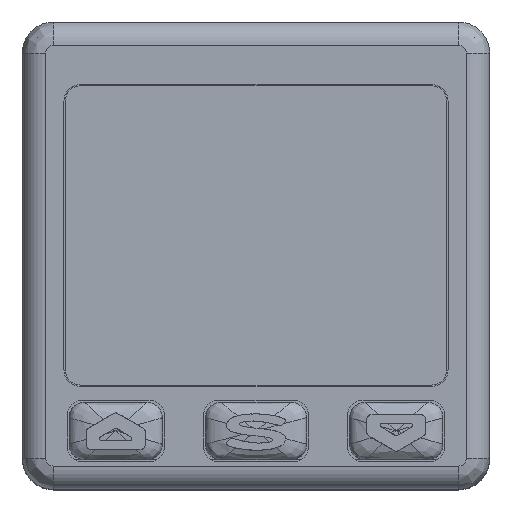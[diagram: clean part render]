
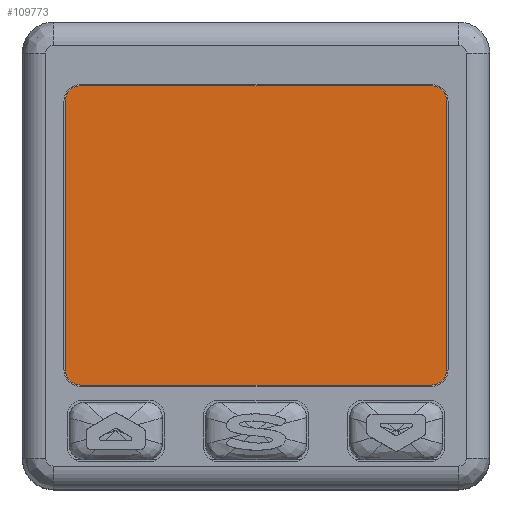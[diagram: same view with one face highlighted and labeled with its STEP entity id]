
A CAD part, top view. The second image highlights one B-rep face of the part: STEP entity #109773.
In plain terms, the highlighted planar face has unit normal (0, 0, 1).
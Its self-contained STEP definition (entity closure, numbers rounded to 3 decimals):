
#35094=CARTESIAN_POINT('',(11.25,-7.3,21.1));
#35095=DIRECTION('',(0.,0.,-1.));
#35096=DIRECTION('',(1.,0.,0.));
#35097=AXIS2_PLACEMENT_3D('',#35094,#35095,#35096);
#35099=DIRECTION('',(1.,0.,0.));
#35100=VECTOR('',#35099,22.5);
#35101=CARTESIAN_POINT('',(-11.25,-8.38,21.1));
#35102=LINE('',#35101,#35100);
#35103=CARTESIAN_POINT('',(-11.25,-7.3,21.1));
#35104=DIRECTION('',(0.,0.,-1.));
#35105=DIRECTION('',(0.,-1.,0.));
#35106=AXIS2_PLACEMENT_3D('',#35103,#35104,#35105);
#35108=DIRECTION('',(0.,1.,0.));
#35109=VECTOR('',#35108,17.2);
#35110=CARTESIAN_POINT('',(-12.33,-7.3,21.1));
#35111=LINE('',#35110,#35109);
#35112=CARTESIAN_POINT('',(-11.25,9.9,21.1));
#35113=DIRECTION('',(0.,0.,-1.));
#35114=DIRECTION('',(-1.,0.,0.));
#35115=AXIS2_PLACEMENT_3D('',#35112,#35113,#35114);
#35117=DIRECTION('',(1.,0.,0.));
#35118=VECTOR('',#35117,22.5);
#35119=CARTESIAN_POINT('',(-11.25,10.98,21.1));
#35120=LINE('',#35119,#35118);
#35121=CARTESIAN_POINT('',(11.25,9.9,21.1));
#35122=DIRECTION('',(0.,0.,-1.));
#35123=DIRECTION('',(0.,1.,0.));
#35124=AXIS2_PLACEMENT_3D('',#35121,#35122,#35123);
#35126=DIRECTION('',(0.,1.,0.));
#35127=VECTOR('',#35126,17.2);
#35128=CARTESIAN_POINT('',(12.33,-7.3,21.1));
#35129=LINE('',#35128,#35127);
#59561=CARTESIAN_POINT('',(12.33,-7.3,21.1));
#59562=CARTESIAN_POINT('',(11.25,-8.38,21.1));
#59563=VERTEX_POINT('',#59561);
#59564=VERTEX_POINT('',#59562);
#59565=CARTESIAN_POINT('',(12.33,9.9,21.1));
#59566=VERTEX_POINT('',#59565);
#59567=CARTESIAN_POINT('',(-11.25,-8.38,21.1));
#59568=VERTEX_POINT('',#59567);
#59569=CARTESIAN_POINT('',(-12.33,9.9,21.1));
#59570=CARTESIAN_POINT('',(-11.25,10.98,21.1));
#59571=VERTEX_POINT('',#59569);
#59572=VERTEX_POINT('',#59570);
#59573=CARTESIAN_POINT('',(11.25,10.98,21.1));
#59574=VERTEX_POINT('',#59573);
#59575=CARTESIAN_POINT('',(-12.33,-7.3,21.1));
#59576=VERTEX_POINT('',#59575);
#109751=CARTESIAN_POINT('',(0.,2.5,21.1));
#109752=DIRECTION('',(0.,0.,1.));
#109753=DIRECTION('',(1.,0.,0.));
#109754=AXIS2_PLACEMENT_3D('',#109751,#109752,#109753);
#109755=PLANE('',#109754);
#109757=ORIENTED_EDGE('',*,*,#109756,.T.);
#109759=ORIENTED_EDGE('',*,*,#109758,.F.);
#109761=ORIENTED_EDGE('',*,*,#109760,.T.);
#109762=ORIENTED_EDGE('',*,*,#109741,.T.);
#109764=ORIENTED_EDGE('',*,*,#109763,.T.);
#109766=ORIENTED_EDGE('',*,*,#109765,.T.);
#109768=ORIENTED_EDGE('',*,*,#109767,.T.);
#109770=ORIENTED_EDGE('',*,*,#109769,.F.);
#109771=EDGE_LOOP('',(#109757,#109759,#109761,#109762,#109764,#109766,#109768,
#109770));
#109772=FACE_OUTER_BOUND('',#109771,.F.);
#109773=ADVANCED_FACE('',(#109772),#109755,.T.);
#35098=CIRCLE('',#35097,1.08);
#35107=CIRCLE('',#35106,1.08);
#35116=CIRCLE('',#35115,1.08);
#35125=CIRCLE('',#35124,1.08);
#109741=EDGE_CURVE('',#59576,#59571,#35111,.T.);
#109756=EDGE_CURVE('',#59563,#59564,#35098,.T.);
#109758=EDGE_CURVE('',#59568,#59564,#35102,.T.);
#109760=EDGE_CURVE('',#59568,#59576,#35107,.T.);
#109763=EDGE_CURVE('',#59571,#59572,#35116,.T.);
#109765=EDGE_CURVE('',#59572,#59574,#35120,.T.);
#109767=EDGE_CURVE('',#59574,#59566,#35125,.T.);
#109769=EDGE_CURVE('',#59563,#59566,#35129,.T.);
